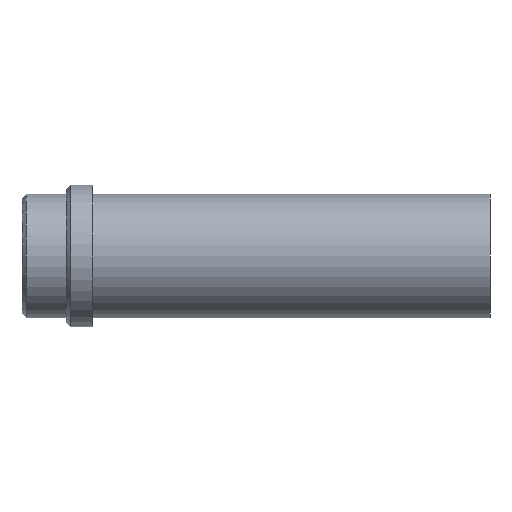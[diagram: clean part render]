
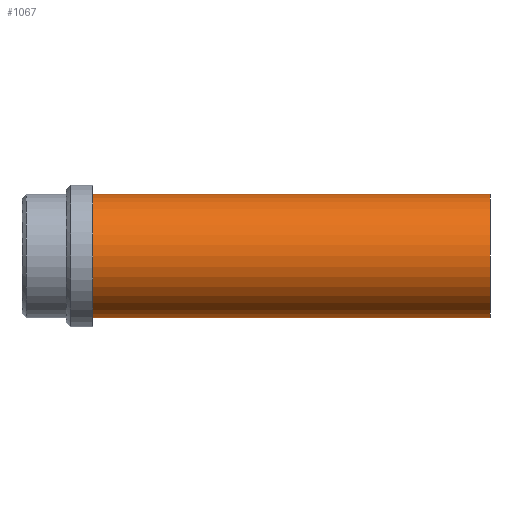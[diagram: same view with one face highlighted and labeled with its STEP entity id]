
A CAD part, front view. The second image highlights one B-rep face of the part: STEP entity #1067.
In plain terms, the highlighted cylindrical face has radius 14 mm (diameter 28 mm), a partial arc.
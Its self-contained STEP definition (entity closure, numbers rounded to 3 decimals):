
#953=CARTESIAN_POINT('Vertex',(0.,0.,-14.)) ;
#958=CARTESIAN_POINT('Axis2P3D Location',(0.,0.,0.)) ;
#962=CARTESIAN_POINT('Vertex',(0.,-14.,0.)) ;
#965=CARTESIAN_POINT('Axis2P3D Location',(0.,0.,0.)) ;
#969=CARTESIAN_POINT('Vertex',(0.,0.,14.)) ;
#995=CARTESIAN_POINT('Vertex',(90.,0.,14.)) ;
#998=CARTESIAN_POINT('Axis2P3D Location',(90.,0.,0.)) ;
#1002=CARTESIAN_POINT('Vertex',(90.,-14.,0.)) ;
#1005=CARTESIAN_POINT('Axis2P3D Location',(90.,0.,0.)) ;
#1009=CARTESIAN_POINT('Vertex',(90.,0.,-14.)) ;
#1035=CARTESIAN_POINT('Line Origine',(90.,0.,14.)) ;
#1040=CARTESIAN_POINT('Line Origine',(90.,0.,-14.)) ;
#1054=CARTESIAN_POINT('Axis2P3D Location',(90.,0.,0.)) ;
#959=DIRECTION('Axis2P3D Direction',(1.,0.,-0.)) ;
#966=DIRECTION('Axis2P3D Direction',(1.,0.,-0.)) ;
#999=DIRECTION('Axis2P3D Direction',(1.,0.,-0.)) ;
#1006=DIRECTION('Axis2P3D Direction',(1.,0.,-0.)) ;
#1036=DIRECTION('Vector Direction',(-1.,0.,0.)) ;
#1041=DIRECTION('Vector Direction',(-1.,0.,0.)) ;
#1055=DIRECTION('Axis2P3D Direction',(-1.,-0.,-0.)) ;
#1056=DIRECTION('Axis2P3D XDirection',(0.,0.,-1.)) ;
#960=AXIS2_PLACEMENT_3D('Circle Axis2P3D',#958,#959,$) ;
#967=AXIS2_PLACEMENT_3D('Circle Axis2P3D',#965,#966,$) ;
#1000=AXIS2_PLACEMENT_3D('Circle Axis2P3D',#998,#999,$) ;
#1007=AXIS2_PLACEMENT_3D('Circle Axis2P3D',#1005,#1006,$) ;
#1057=AXIS2_PLACEMENT_3D('Cylinder Axis2P3D',#1054,#1055,#1056) ;
#1060=ORIENTED_EDGE('',*,*,#1044,.T.) ;
#1061=ORIENTED_EDGE('',*,*,#1011,.F.) ;
#1062=ORIENTED_EDGE('',*,*,#1004,.F.) ;
#1063=ORIENTED_EDGE('',*,*,#1039,.T.) ;
#1064=ORIENTED_EDGE('',*,*,#971,.T.) ;
#1065=ORIENTED_EDGE('',*,*,#964,.T.) ;
#1037=VECTOR('Line Direction',#1036,1.) ;
#1042=VECTOR('Line Direction',#1041,1.) ;
#1067=ADVANCED_FACE('358-20X106',(#1066),#1058,.T.) ;
#961=CIRCLE('generated circle',#960,14.) ;
#968=CIRCLE('generated circle',#967,14.) ;
#1001=CIRCLE('generated circle',#1000,14.) ;
#1008=CIRCLE('generated circle',#1007,14.) ;
#1058=CYLINDRICAL_SURFACE('generated cylinder',#1057,14.) ;
#964=EDGE_CURVE('',#963,#954,#961,.T.) ;
#971=EDGE_CURVE('',#970,#963,#968,.T.) ;
#1004=EDGE_CURVE('',#996,#1003,#1001,.T.) ;
#1011=EDGE_CURVE('',#1003,#1010,#1008,.T.) ;
#1039=EDGE_CURVE('',#996,#970,#1038,.T.) ;
#1044=EDGE_CURVE('',#954,#1010,#1043,.F.) ;
#1059=EDGE_LOOP('',(#1060,#1061,#1062,#1063,#1064,#1065)) ;
#1066=FACE_OUTER_BOUND('',#1059,.T.) ;
#1038=LINE('Line',#1035,#1037) ;
#1043=LINE('Line',#1040,#1042) ;
#954=VERTEX_POINT('',#953) ;
#963=VERTEX_POINT('',#962) ;
#970=VERTEX_POINT('',#969) ;
#996=VERTEX_POINT('',#995) ;
#1003=VERTEX_POINT('',#1002) ;
#1010=VERTEX_POINT('',#1009) ;
